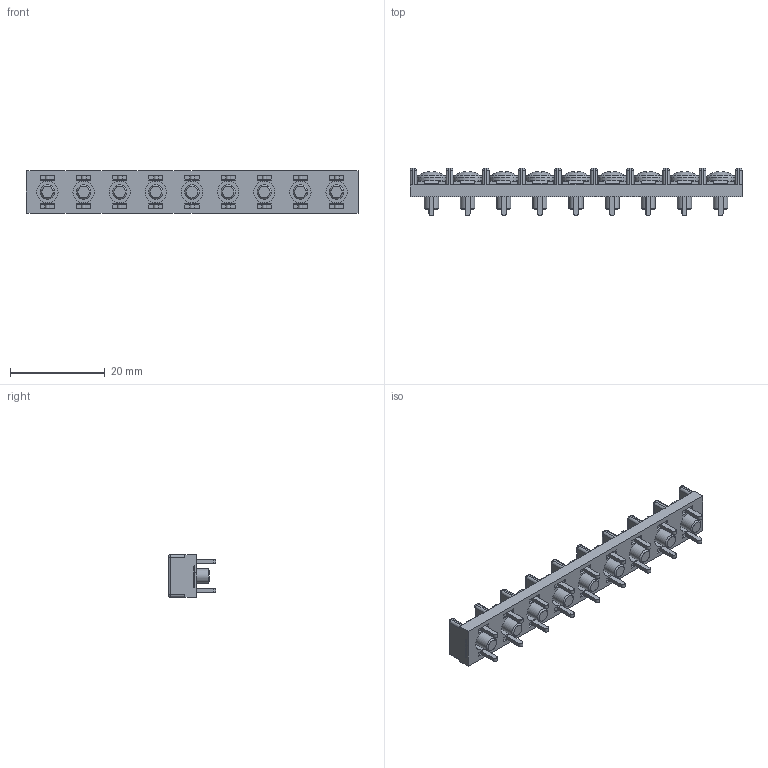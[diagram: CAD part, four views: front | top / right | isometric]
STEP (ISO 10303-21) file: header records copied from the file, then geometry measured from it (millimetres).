
FILE_DESCRIPTION(/* description */ ('Alibre Inc.'),/* implementation_level */ '2;1');
FILE_NAME(/* name */ 'export0',/* time_stamp */ '2015-11-28T15:43:33+09:00',/* author */ (''),/* organization */ (''),/* preprocessor_version */ 'ST-DEVELOPER v14',/* originating_system */ 'Alibre',/* authorisation */ '');
FILE_SCHEMA (('CONFIG_CONTROL_DESIGN'));
Length unit declared in the file: centimetre
Products named in the file (1): ID_1
Bounding box: 70 x 10 x 9 mm (x, y, z)
Volume: 2608.7 mm3; surface area: 4798.1 mm2
Topology: 1 solids, 129 shells, 2485 faces, 6397 edges, 4186 vertices
Faces by surface type: plane 1762, bspline 468, cylinder 152, sphere 49, cone 45, torus 9
Full cylindrical faces by diameter (mm): 3 x18, 4.5 x9, 6.1 x9
Entity records: 71938 total; most frequent: CARTESIAN_POINT 17227, ORIENTED_EDGE 12570, DIRECTION 7859, EDGE_CURVE 6285, VECTOR 4699, LINE 4699, VERTEX_POINT 4168, EDGE_LOOP 2695
